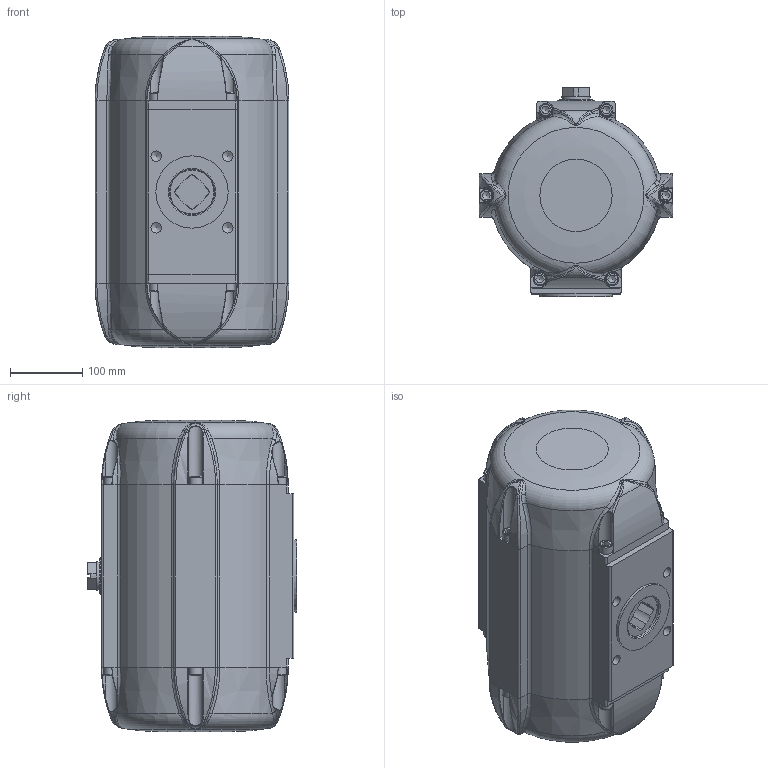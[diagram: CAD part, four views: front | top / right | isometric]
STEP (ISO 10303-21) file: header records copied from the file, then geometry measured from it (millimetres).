
FILE_DESCRIPTION(/* description */ (''),/* implementation_level */ '2;1');
FILE_NAME(/* name */ 'C:\Users\war\Desktop\BR03C_SAF_40.stp',/* time_stamp */ '2021-05-05T10:07:34+02:00',/* author */ ('war'),/* organization */ (''),/* preprocessor_version */ 'ST-DEVELOPER v18.1',/* originating_system */ 'Autodesk Inventor 2021',/* authorisation */ '');
FILE_SCHEMA (('AUTOMOTIVE_DESIGN { 1 0 10303 214 3 1 1 }'));
Products named in the file (1): ENG-038718_Shrinkwrap_1
Bounding box: 268 x 290 x 430 mm (x, y, z)
Volume: 7945139.3 mm3; surface area: 1284992.9 mm2
Topology: 1 solids, 1 shells, 2998 faces, 7595 edges, 4607 vertices
Faces by surface type: bspline 962, plane 744, cylinder 717, torus 263, cone 226, sphere 86
Full cylindrical faces by diameter (mm): 2.5 x2, 4.134 x8, 4.917 x1, 8 x1, 8.376 x2, 11.445 x2, 12.5 x2, 13 x2, 14.376 x4, 18 x12, 30 x3, 30.3 x4, 31 x1, 34 x3, 34.4 x2, 35 x1, 36 x1, 37 x2, 39.8 x3, 40 x2, 40.1 x1, 45 x1, 48.5 x1, 50 x14, 57 x3, 60 x1, 61.8 x3, 62 x2, 100 x1, 209.9 x1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
Entity records: 138235 total; most frequent: CARTESIAN_POINT 69985, ORIENTED_EDGE 14932, DIRECTION 11665, EDGE_CURVE 7466, AXIS2_PLACEMENT_3D 4624, VERTEX_POINT 4607, EDGE_LOOP 3157, FACE_OUTER_BOUND 2998
